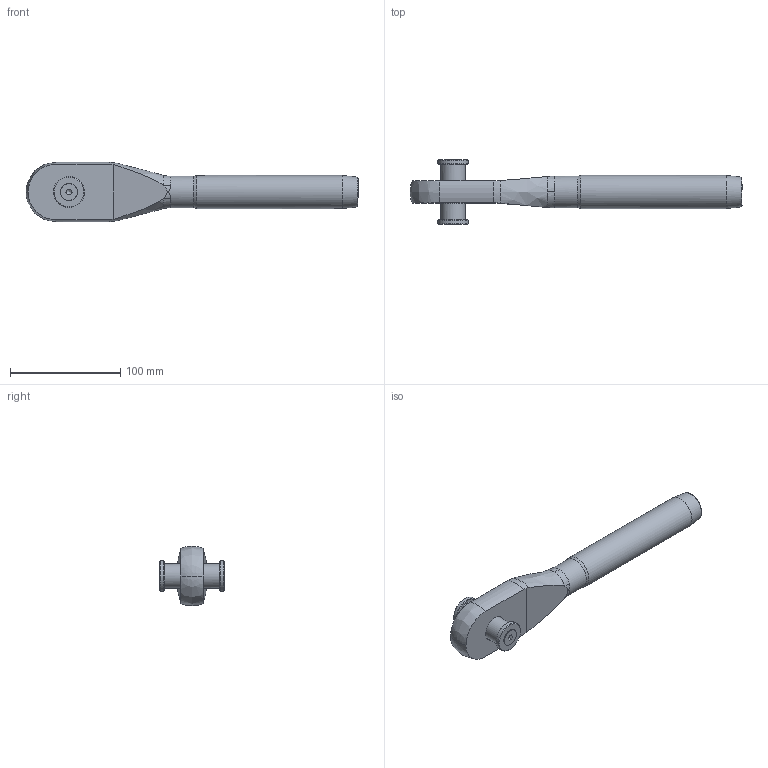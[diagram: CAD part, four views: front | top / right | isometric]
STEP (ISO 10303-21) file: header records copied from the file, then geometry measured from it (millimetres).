
FILE_DESCRIPTION(/* description */ (''),/* implementation_level */ '2;1');
FILE_NAME(/* name */ 'MCC 16_42CrMo4',/* time_stamp */ '2023-05-23T15:40:59+02:00',/* author */ (''),/* organization */ (''),/* preprocessor_version */ 'ST-DEVELOPER v16.5',/* originating_system */ 'Rhino 7.22',/* authorisation */ '');
FILE_SCHEMA (('CONFIG_CONTROL_DESIGN'));
Length unit declared in the file: millimetre
Products named in the file (1): Document
Bounding box: 301 x 59.67 x 53.94 mm (x, y, z)
Volume: 256252.8 mm3; surface area: 43584.7 mm2
Topology: 6 solids, 6 shells, 74 faces, 203 edges, 135 vertices
Faces by surface type: bspline 31, plane 27, cylinder 16
Full cylindrical faces by diameter (mm): 6.647 x2, 8 x2, 8.5 x2, 15.24 x2, 22 x1, 24 x1, 28 x2, 28.6 x1, 30 x1
Entity records: 3245 total; most frequent: CARTESIAN_POINT 1990, ORIENTED_EDGE 386, EDGE_CURVE 193, VERTEX_POINT 135, EDGE_LOOP 84, ADVANCED_FACE 74, FACE_OUTER_BOUND 74, B_SPLINE_CURVE_WITH_KNOTS 64
